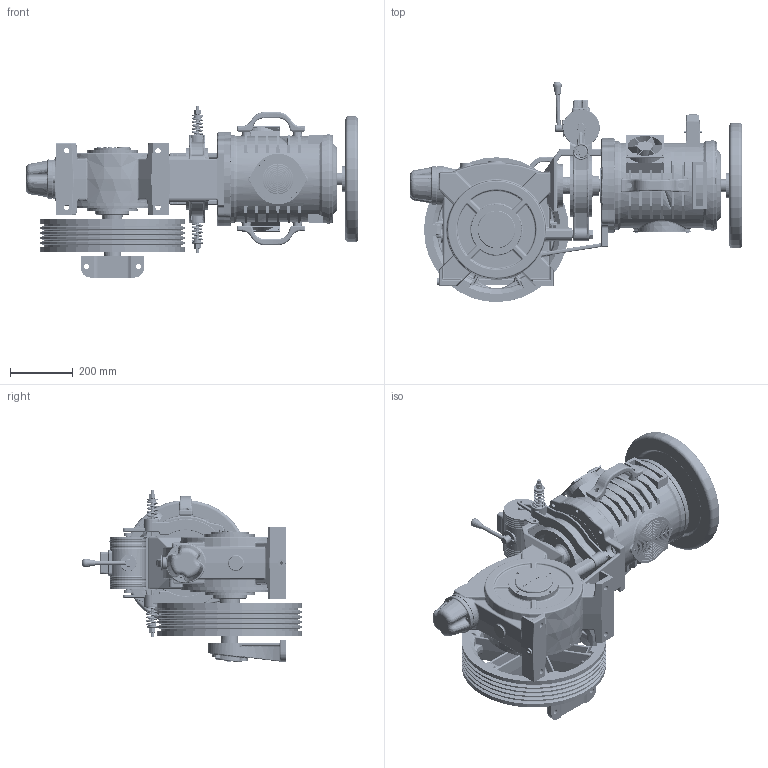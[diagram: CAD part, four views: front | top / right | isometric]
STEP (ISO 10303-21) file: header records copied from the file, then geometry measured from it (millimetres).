
FILE_DESCRIPTION (( 'STEP AP214' ), '1' );
FILE_NAME ('ELTC7504021.STEP', '2026-01-19T13:41:01', ( '' ), ( '' ), 'SwSTEP 2.0', 'SolidWorks 2023', '' );
FILE_SCHEMA (( 'AUTOMOTIVE_DESIGN' ));
Length unit declared in the file: millimetre
Products named in the file (1): ELTC7504021
Bounding box: 1054.98 x 699.43 x 549.28 mm (x, y, z)
Volume: 53609448.7 mm3; surface area: 5477657.4 mm2
Topology: 134 solids, 154 shells, 7425 faces, 17839 edges, 10771 vertices
Faces by surface type: cylinder 2429, plane 1957, bspline 1400, torus 774, cone 522, sphere 343
Entity records: 295687 total; most frequent: CARTESIAN_POINT 130265, ORIENTED_EDGE 35232, DIRECTION 33339, EDGE_CURVE 17616, AXIS2_PLACEMENT_3D 13691, VERTEX_POINT 10759, EDGE_LOOP 8321, CIRCLE 7665
